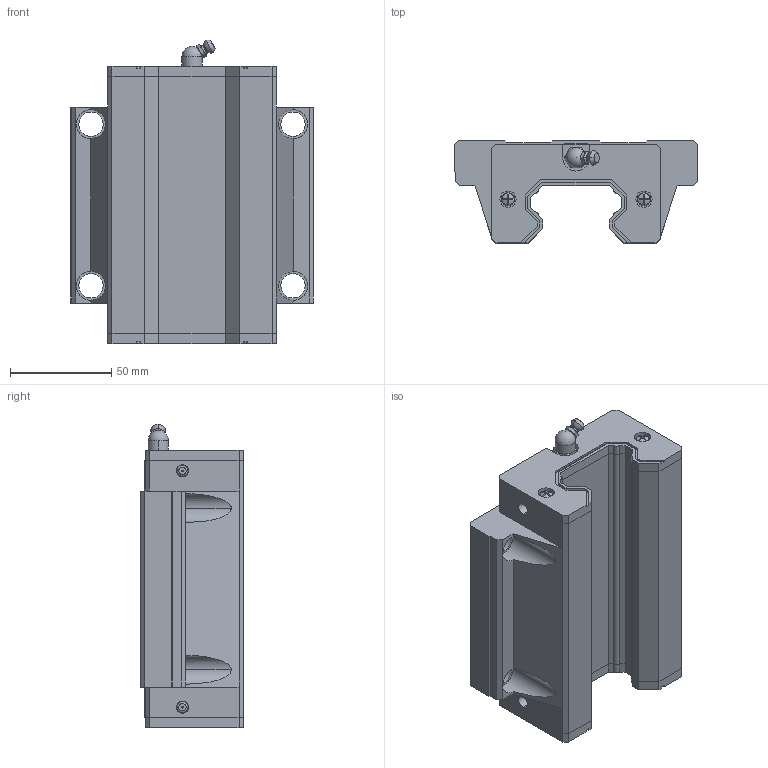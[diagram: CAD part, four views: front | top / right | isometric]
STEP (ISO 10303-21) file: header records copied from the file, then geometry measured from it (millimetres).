
FILE_DESCRIPTION (( 'STEP AP203' ), '1' );
FILE_NAME ('HGW45CC.STEP', '2021-10-22T07:53:15', ( '微软用户' ), ( '微软中国' ), 'SwSTEP 2.0', 'SolidWorks 2012', '' );
FILE_SCHEMA (( 'CONFIG_CONTROL_DESIGN' ));
Length unit declared in the file: millimetre
Products named in the file (1): HGW45CC
Bounding box: 120 x 50.5 x 150.3 mm (x, y, z)
Volume: 495409.4 mm3; surface area: 74767.5 mm2
Topology: 3 solids, 3 shells, 380 faces, 1007 edges, 661 vertices
Faces by surface type: plane 256, cylinder 76, cone 23, torus 20, sphere 5
Entity records: 12203 total; most frequent: CARTESIAN_POINT 2541, ORIENTED_EDGE 2008, DIRECTION 1984, EDGE_CURVE 1004, VECTOR 680, LINE 680, VERTEX_POINT 659, AXIS2_PLACEMENT_3D 652
